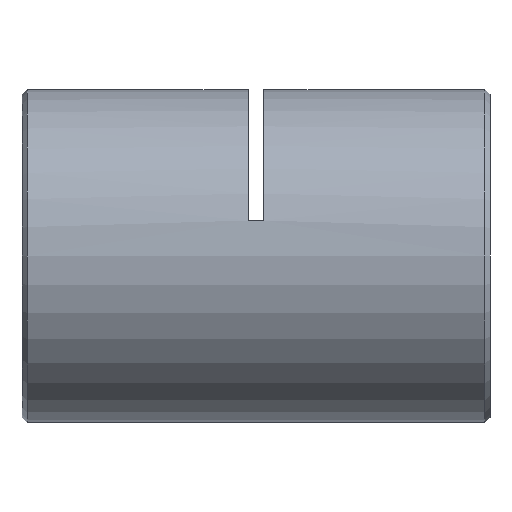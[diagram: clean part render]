
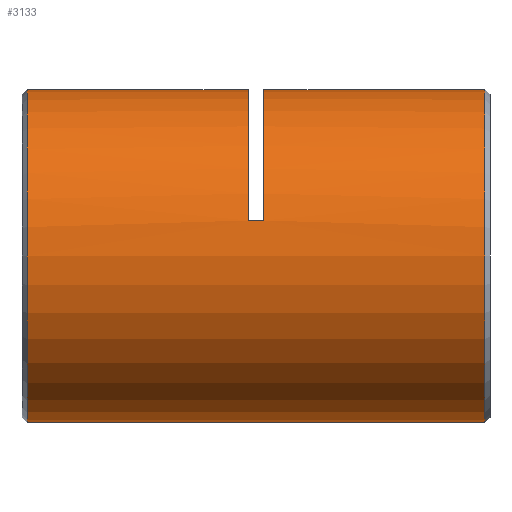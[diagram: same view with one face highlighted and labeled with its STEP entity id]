
A CAD part, left-side view. The second image highlights one B-rep face of the part: STEP entity #3133.
In plain terms, the highlighted cylindrical face has radius 16 mm (diameter 32 mm), a partial arc.
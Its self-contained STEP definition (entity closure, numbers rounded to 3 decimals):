
#1 = CARTESIAN_POINT ( 'NONE',  ( -15.632, 22.75, 3.413 ) ) ;
#99 = AXIS2_PLACEMENT_3D ( 'NONE', #1396, #870, #4760 ) ;
#403 = EDGE_CURVE ( 'NONE', #638, #464, #3864, .T. ) ;
#464 = VERTEX_POINT ( 'NONE', #511 ) ;
#511 = CARTESIAN_POINT ( 'NONE',  ( -15.632, 23.5, 3.413 ) ) ;
#638 = VERTEX_POINT ( 'NONE', #3023 ) ;
#646 = DIRECTION ( 'NONE',  ( 0., 1., 0. ) ) ;
#725 = VERTEX_POINT ( 'NONE', #4254 ) ;
#870 = DIRECTION ( 'NONE',  ( 0., 1., 0. ) ) ;
#943 = VECTOR ( 'NONE', #2899, 1000. ) ;
#954 = AXIS2_PLACEMENT_3D ( 'NONE', #6122, #3700, #1784 ) ;
#1012 = AXIS2_PLACEMENT_3D ( 'NONE', #5538, #646, #2125 ) ;
#1032 = CIRCLE ( 'NONE', #4158, 16. ) ;
#1131 = DIRECTION ( 'NONE',  ( 0., 1., 0. ) ) ;
#1149 = VECTOR ( 'NONE', #3837, 1000. ) ;
#1241 = LINE ( 'NONE', #3149, #1924 ) ;
#1242 = ORIENTED_EDGE ( 'NONE', *, *, #1282, .T. ) ;
#1282 = EDGE_CURVE ( 'NONE', #1759, #2549, #5291, .T. ) ;
#1330 = LINE ( 'NONE', #5691, #1149 ) ;
#1396 = CARTESIAN_POINT ( 'NONE',  ( 0., 0.75, 0. ) ) ;
#1526 = EDGE_LOOP ( 'NONE', ( #2535, #2503, #4518, #3232, #2199, #5761, #1242, #2185 ) ) ;
#1608 = FACE_OUTER_BOUND ( 'NONE', #1526, .T. ) ;
#1759 = VERTEX_POINT ( 'NONE', #3714 ) ;
#1779 = EDGE_CURVE ( 'NONE', #2916, #725, #1241, .T. ) ;
#1784 = DIRECTION ( 'NONE',  ( 0., 0., -1. ) ) ;
#1924 = VECTOR ( 'NONE', #6044, 1000. ) ;
#1964 = EDGE_CURVE ( 'NONE', #2916, #3446, #2309, .T. ) ;
#2125 = DIRECTION ( 'NONE',  ( 0., 0., 1. ) ) ;
#2185 = ORIENTED_EDGE ( 'NONE', *, *, #3399, .T. ) ;
#2199 = ORIENTED_EDGE ( 'NONE', *, *, #403, .T. ) ;
#2309 = CIRCLE ( 'NONE', #99, 16. ) ;
#2503 = ORIENTED_EDGE ( 'NONE', *, *, #1964, .T. ) ;
#2535 = ORIENTED_EDGE ( 'NONE', *, *, #1779, .F. ) ;
#2549 = VERTEX_POINT ( 'NONE', #6131 ) ;
#2686 = EDGE_CURVE ( 'NONE', #638, #5259, #2920, .T. ) ;
#2722 = CARTESIAN_POINT ( 'NONE',  ( 0., 0.75, 16. ) ) ;
#2899 = DIRECTION ( 'NONE',  ( 0., 1., 0. ) ) ;
#2916 = VERTEX_POINT ( 'NONE', #3688 ) ;
#2920 = CIRCLE ( 'NONE', #1012, 16. ) ;
#2995 = CARTESIAN_POINT ( 'NONE',  ( 0., 0., 16. ) ) ;
#3023 = CARTESIAN_POINT ( 'NONE',  ( -15.632, 22., 3.413 ) ) ;
#3047 = DIRECTION ( 'NONE',  ( 0., 0., 1. ) ) ;
#3133 = ADVANCED_FACE ( 'NONE', ( #1608 ), #3516, .T. ) ;
#3149 = CARTESIAN_POINT ( 'NONE',  ( 0., 0., -16. ) ) ;
#3232 = ORIENTED_EDGE ( 'NONE', *, *, #2686, .F. ) ;
#3399 = EDGE_CURVE ( 'NONE', #2549, #725, #5475, .T. ) ;
#3446 = VERTEX_POINT ( 'NONE', #2722 ) ;
#3516 = CYLINDRICAL_SURFACE ( 'NONE', #5472, 16. ) ;
#3688 = CARTESIAN_POINT ( 'NONE',  ( 0., 0.75, -16. ) ) ;
#3700 = DIRECTION ( 'NONE',  ( 0., -1., 0. ) ) ;
#3714 = CARTESIAN_POINT ( 'NONE',  ( 0., 23.5, 16. ) ) ;
#3837 = DIRECTION ( 'NONE',  ( 0., 1., 0. ) ) ;
#3864 = LINE ( 'NONE', #1, #4109 ) ;
#4109 = VECTOR ( 'NONE', #4285, 1000. ) ;
#4158 = AXIS2_PLACEMENT_3D ( 'NONE', #5700, #5755, #5236 ) ;
#4254 = CARTESIAN_POINT ( 'NONE',  ( 0., 44.75, -16. ) ) ;
#4285 = DIRECTION ( 'NONE',  ( 0., 1., 0. ) ) ;
#4518 = ORIENTED_EDGE ( 'NONE', *, *, #5542, .T. ) ;
#4760 = DIRECTION ( 'NONE',  ( 0., 0., 1. ) ) ;
#4923 = CARTESIAN_POINT ( 'NONE',  ( 0., 22., 16. ) ) ;
#5236 = DIRECTION ( 'NONE',  ( 0., 0., 1. ) ) ;
#5259 = VERTEX_POINT ( 'NONE', #4923 ) ;
#5291 = LINE ( 'NONE', #2995, #943 ) ;
#5435 = CARTESIAN_POINT ( 'NONE',  ( 0., 0., 0. ) ) ;
#5472 = AXIS2_PLACEMENT_3D ( 'NONE', #5435, #1131, #3047 ) ;
#5475 = CIRCLE ( 'NONE', #954, 16. ) ;
#5538 = CARTESIAN_POINT ( 'NONE',  ( 0., 22., 0. ) ) ;
#5542 = EDGE_CURVE ( 'NONE', #3446, #5259, #1330, .T. ) ;
#5691 = CARTESIAN_POINT ( 'NONE',  ( 0., 0., 16. ) ) ;
#5700 = CARTESIAN_POINT ( 'NONE',  ( 0., 23.5, 0. ) ) ;
#5755 = DIRECTION ( 'NONE',  ( 0., 1., 0. ) ) ;
#5761 = ORIENTED_EDGE ( 'NONE', *, *, #5947, .T. ) ;
#5947 = EDGE_CURVE ( 'NONE', #464, #1759, #1032, .T. ) ;
#6044 = DIRECTION ( 'NONE',  ( 0., 1., 0. ) ) ;
#6122 = CARTESIAN_POINT ( 'NONE',  ( 0., 44.75, 0. ) ) ;
#6131 = CARTESIAN_POINT ( 'NONE',  ( 0., 44.75, 16. ) ) ;
